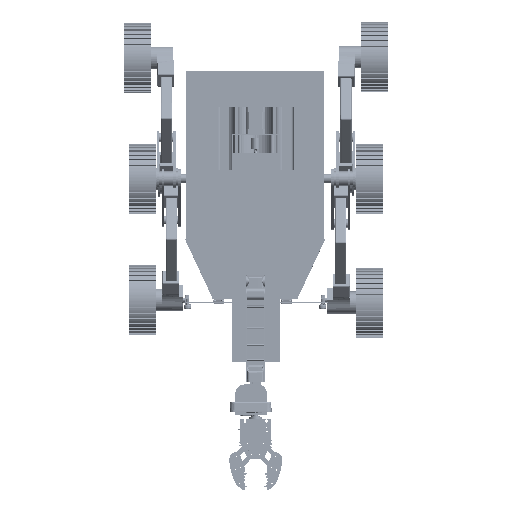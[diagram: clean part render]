
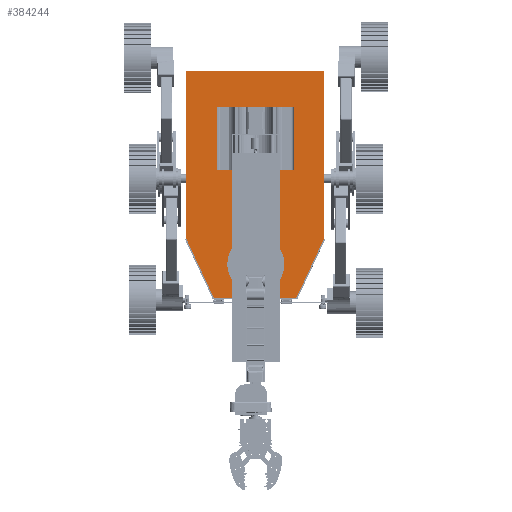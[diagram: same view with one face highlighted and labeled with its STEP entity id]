
A CAD part, top view. The second image highlights one B-rep face of the part: STEP entity #384244.
In plain terms, the highlighted planar face has unit normal (0, 0, 1).
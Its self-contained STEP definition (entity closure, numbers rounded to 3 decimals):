
#11790=FACE_BOUND('',#72249,.T.);
#11791=FACE_BOUND('',#72250,.T.);
#22723=PLANE('',#419726);
#47638=FACE_OUTER_BOUND('',#72248,.T.);
#72248=EDGE_LOOP('',(#352058,#352059,#352060,#352061,#352062,#352063));
#72249=EDGE_LOOP('',(#352064));
#72250=EDGE_LOOP('',(#352065,#352066,#352067,#352068));
#107311=LINE('',#832885,#143073);
#107312=LINE('',#832888,#143074);
#107315=LINE('',#832894,#143077);
#107316=LINE('',#832896,#143078);
#107317=LINE('',#832898,#143079);
#107318=LINE('',#832899,#143080);
#107319=LINE('',#832904,#143081);
#107320=LINE('',#832906,#143082);
#107321=LINE('',#832908,#143083);
#107322=LINE('',#832909,#143084);
#143073=VECTOR('',#516245,10.);
#143074=VECTOR('',#516248,10.);
#143077=VECTOR('',#516253,10.);
#143078=VECTOR('',#516254,10.);
#143079=VECTOR('',#516255,10.);
#143080=VECTOR('',#516256,10.);
#143081=VECTOR('',#516259,10.);
#143082=VECTOR('',#516260,10.);
#143083=VECTOR('',#516261,10.);
#143084=VECTOR('',#516262,10.);
#157447=CIRCLE('',#419727,63.498);
#191775=VERTEX_POINT('',#832879);
#191777=VERTEX_POINT('',#832883);
#191778=VERTEX_POINT('',#832887);
#191780=VERTEX_POINT('',#832893);
#191781=VERTEX_POINT('',#832895);
#191782=VERTEX_POINT('',#832897);
#191783=VERTEX_POINT('',#832900);
#191784=VERTEX_POINT('',#832902);
#191785=VERTEX_POINT('',#832903);
#191786=VERTEX_POINT('',#832905);
#191787=VERTEX_POINT('',#832907);
#245573=EDGE_CURVE('',#191775,#191777,#107311,.T.);
#245574=EDGE_CURVE('',#191778,#191775,#107312,.T.);
#245577=EDGE_CURVE('',#191777,#191780,#107315,.T.);
#245578=EDGE_CURVE('',#191780,#191781,#107316,.T.);
#245579=EDGE_CURVE('',#191781,#191782,#107317,.T.);
#245580=EDGE_CURVE('',#191782,#191778,#107318,.T.);
#245581=EDGE_CURVE('',#191783,#191783,#157447,.T.);
#245582=EDGE_CURVE('',#191784,#191785,#107319,.T.);
#245583=EDGE_CURVE('',#191784,#191786,#107320,.T.);
#245584=EDGE_CURVE('',#191787,#191786,#107321,.T.);
#245585=EDGE_CURVE('',#191787,#191785,#107322,.T.);
#352058=ORIENTED_EDGE('',*,*,#245573,.T.);
#352059=ORIENTED_EDGE('',*,*,#245577,.T.);
#352060=ORIENTED_EDGE('',*,*,#245578,.T.);
#352061=ORIENTED_EDGE('',*,*,#245579,.T.);
#352062=ORIENTED_EDGE('',*,*,#245580,.T.);
#352063=ORIENTED_EDGE('',*,*,#245574,.T.);
#352064=ORIENTED_EDGE('',*,*,#245581,.T.);
#352065=ORIENTED_EDGE('',*,*,#245582,.F.);
#352066=ORIENTED_EDGE('',*,*,#245583,.T.);
#352067=ORIENTED_EDGE('',*,*,#245584,.F.);
#352068=ORIENTED_EDGE('',*,*,#245585,.T.);
#384244=ADVANCED_FACE('',(#47638,#11790,#11791),#22723,.T.);
#419726=AXIS2_PLACEMENT_3D('',#832892,#516251,#516252);
#419727=AXIS2_PLACEMENT_3D('',#832901,#516257,#516258);
#516245=DIRECTION('',(1.,0.,0.));
#516248=DIRECTION('',(0.424,-0.906,0.));
#516251=DIRECTION('center_axis',(0.,0.,
1.));
#516252=DIRECTION('ref_axis',(-1.,0.,0.));
#516253=DIRECTION('',(0.424,0.906,0.));
#516254=DIRECTION('',(0.,1.,0.));
#516255=DIRECTION('',(-1.,0.,0.));
#516256=DIRECTION('',(0.,-1.,0.));
#516257=DIRECTION('center_axis',(0.,0.,
-1.));
#516258=DIRECTION('ref_axis',(-1.,0.,0.));
#516259=DIRECTION('',(1.,0.,0.));
#516260=DIRECTION('',(0.,1.,0.));
#516261=DIRECTION('',(-1.,0.,0.));
#516262=DIRECTION('',(0.,-1.,0.));
#832879=CARTESIAN_POINT('',(133.556,-264.993,248.179));
#832883=CARTESIAN_POINT('',(316.444,-264.993,248.179));
#832885=CARTESIAN_POINT('',(172.5,-264.993,248.179));
#832887=CARTESIAN_POINT('',(72.,-133.388,248.179));
#832888=CARTESIAN_POINT('',(66.256,-121.107,248.179));
#832892=CARTESIAN_POINT('Origin',(225.,-31.889,248.179));
#832893=CARTESIAN_POINT('',(378.,-133.388,248.179));
#832894=CARTESIAN_POINT('',(344.078,-205.913,248.179));
#832895=CARTESIAN_POINT('',(378.,239.222,248.179));
#832896=CARTESIAN_POINT('',(378.,-303.,248.179));
#832897=CARTESIAN_POINT('',(72.,239.222,248.179));
#832898=CARTESIAN_POINT('',(378.,239.222,248.179));
#832899=CARTESIAN_POINT('',(72.,239.222,248.179));
#832900=CARTESIAN_POINT('',(290.177,-190.001,248.179));
#832901=CARTESIAN_POINT('Origin',(226.678,-190.001,248.179));
#832902=CARTESIAN_POINT('',(141.434,18.251,248.179));
#832903=CARTESIAN_POINT('',(311.434,18.251,248.179));
#832904=CARTESIAN_POINT('',(253.217,18.251,248.179));
#832905=CARTESIAN_POINT('',(141.434,158.251,248.179));
#832906=CARTESIAN_POINT('',(141.434,-21.819,248.179));
#832907=CARTESIAN_POINT('',(311.434,158.251,248.179));
#832908=CARTESIAN_POINT('',(198.217,158.251,248.179));
#832909=CARTESIAN_POINT('',(311.434,78.181,248.179));
